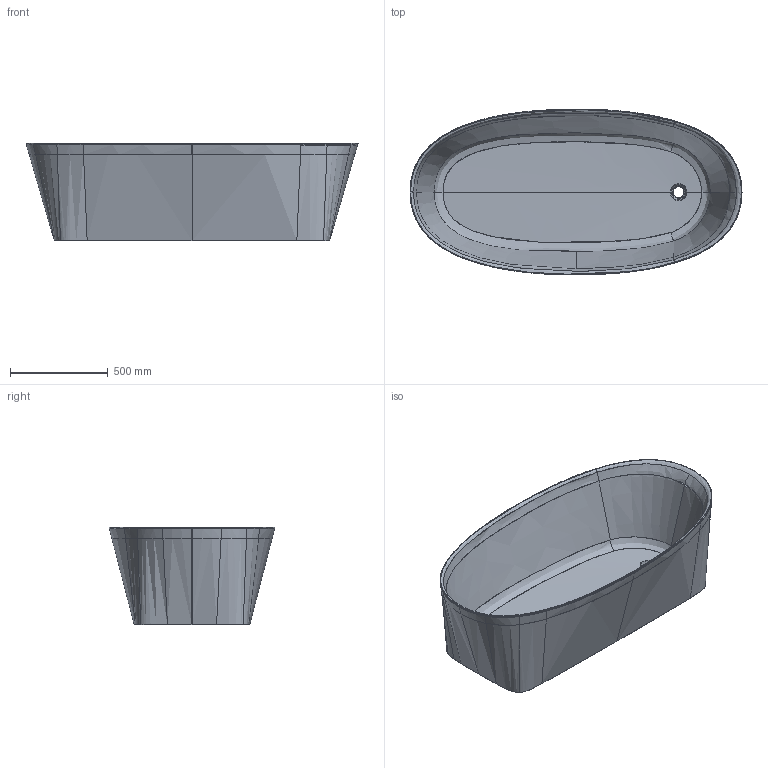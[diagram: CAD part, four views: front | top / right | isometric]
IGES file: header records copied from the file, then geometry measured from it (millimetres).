
Start section: Data from Parasolid IGES Translator 19.0.9, Copyright(c) 2006 Siemens PL M Software. All Rights Reserved.
Global section: file name: noorth-bathtub-H 50 D 85 W 170_5100.igs; native system: By Siemens PLM Incorporated; preprocessor: XPlus GENERIC/IGES 19.0.9; author: Noname; organization: Noname; date: 20200518.114004; units: metre
Bounding box: 1698.51 x 848.71 x 500 mm (x, y, z)
Surface area: 4879041.2 mm2 (no closed solid volume)
Topology: 0 solids, 0 shells, 217 faces, 1237 edges, 1237 vertices
Faces by surface type: bspline 162, revolution 37, extrusion 18
